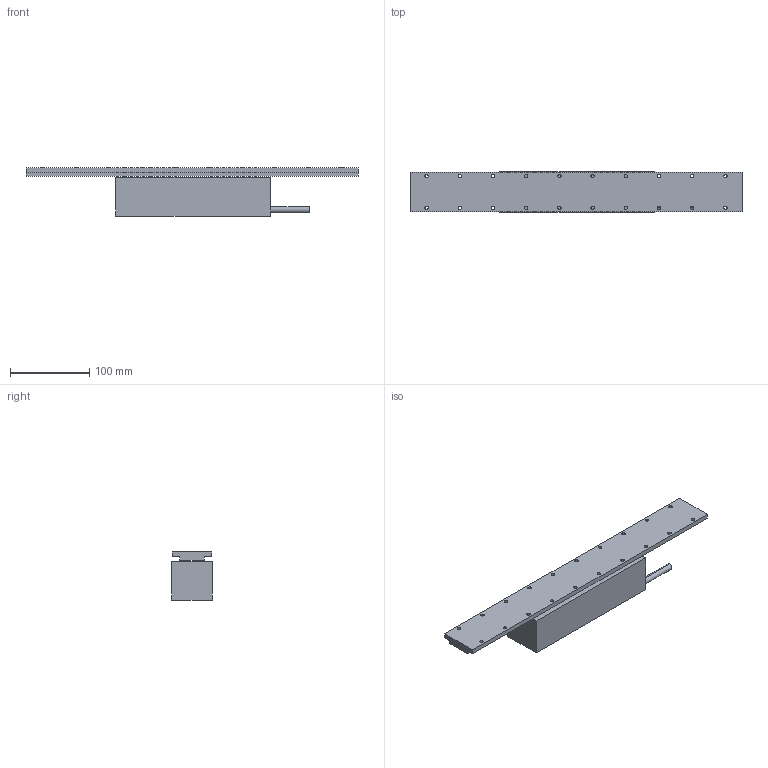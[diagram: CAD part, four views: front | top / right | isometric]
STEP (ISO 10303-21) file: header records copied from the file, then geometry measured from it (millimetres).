
FILE_DESCRIPTION (( 'STEP AP214' ), '1' );
FILE_NAME ('FLM-51-196蚾饜极.STEP', '2022-05-12T08:00:04', ( 'Microsoft' ), ( 'Microsoft' ), 'SwSTEP 2.0', 'SolidWorks 2016', '' );
FILE_SCHEMA (( 'AUTOMOTIVE_DESIGN' ));
Length unit declared in the file: millimetre
Products named in the file (3): FLM-51-196蚾饜极; FLM-51-196; TLM-50-L420
Assembly tree (2 placements, depth 2):
  FLM-51-196蚾饜极
    FLM-51-196
    TLM-50-L420
Bounding box: 420 x 51 x 61.1 mm (x, y, z)
Volume: 679848.4 mm3; surface area: 99859.1 mm2
Topology: 2 solids, 2 shells, 191 faces, 450 edges, 272 vertices
Faces by surface type: cylinder 106, cone 48, plane 37
Entity records: 5822 total; most frequent: DIRECTION 1054, CARTESIAN_POINT 894, ORIENTED_EDGE 852, AXIS2_PLACEMENT_3D 432, EDGE_CURVE 426, VERTEX_POINT 272, EDGE_LOOP 264, CIRCLE 236
